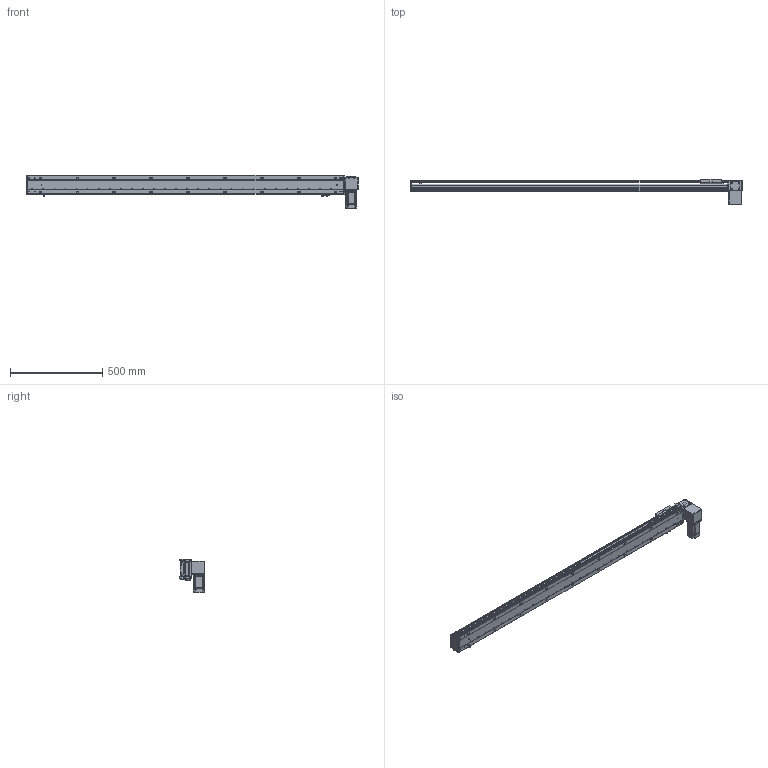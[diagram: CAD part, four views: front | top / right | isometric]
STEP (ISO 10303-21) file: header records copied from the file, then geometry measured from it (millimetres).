
FILE_DESCRIPTION (( 'STEP AP203' ), '1' );
FILE_NAME ('RY100-T-300-DL.SLDASM_1500.step', '2024-04-24T01:12:10', ( '盈信电脑' ), ( '东莞市道滘镇水果街19号' ), 'SwSTEP 2.0', 'SolidWorks 2016', '' );
FILE_SCHEMA (( 'CONFIG_CONTROL_DESIGN' ));
Length unit declared in the file: millimetre
Products named in the file (16): RY100俋离覜茼え; 覜茼ん672; 1; RY100-T-300-RK倰第菁釱_1500; RY100-T肮祭謫翋盓傅釱; RY100-T粣創揤踡裔; RY80-T肮祭謫狟殏俋欶; RY100-T肮祭謫臏賑輸; RY100-T-300-DL.SLDASM_1500; RY100-T翋肮祭謫粣; 滅袉蝶18-10; RY100-T翋肮祭謫裔啣; RY100-T翋肮祭謫裔啣2; RY100綴裔啣; RY100-T-300-RK倰第奻裔_1500; RY100-T左右折电机安装板
Assembly tree (18 placements, depth 2):
  RY100-T-300-DL.SLDASM_1500
    RY100-T-300-RK倰第菁釱_1500
    RY100-T-300-RK倰第奻裔_1500
    RY100-T肮祭謫臏賑輸
    RY100綴裔啣
    覜茼ん672  x3
    RY100俋离覜茼え
    RY100-T翋肮祭謫粣
    RY100-T肮祭謫翋盓傅釱
    滅袉蝶18-10  x2
    RY100-T翋肮祭謫裔啣
    1
    RY100-T左右折电机安装板
    RY100-T粣創揤踡裔
    RY100-T翋肮祭謫裔啣2
    RY80-T肮祭謫狟殏俋欶
Bounding box: 1800 x 135.5 x 182.5 mm (x, y, z)
Volume: 3440904.8 mm3; surface area: 1440602.8 mm2
Topology: 18 solids, 18 shells, 2289 faces, 6363 edges, 4133 vertices
Faces by surface type: plane 1219, cylinder 849, cone 143, bspline 78
Entity records: 74168 total; most frequent: CARTESIAN_POINT 17924, ORIENTED_EDGE 11558, DIRECTION 11043, EDGE_CURVE 5779, VERTEX_POINT 3801, LINE 3685, VECTOR 3685, AXIS2_PLACEMENT_3D 3679
